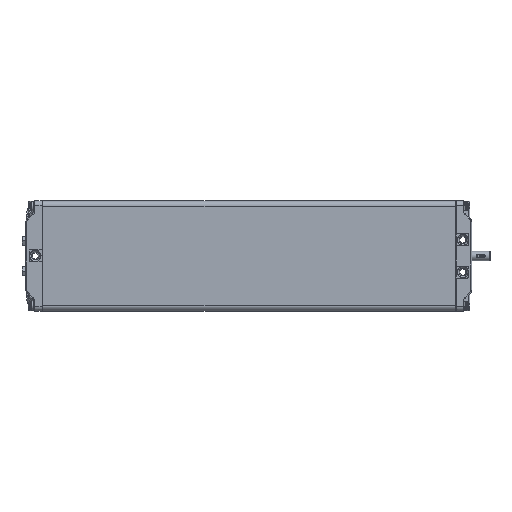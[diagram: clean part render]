
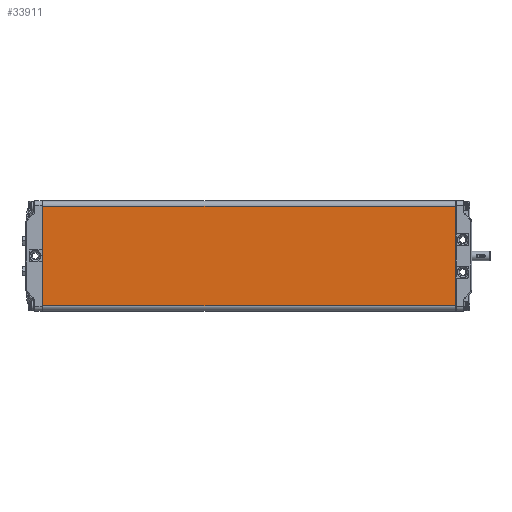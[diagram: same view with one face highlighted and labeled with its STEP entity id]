
A CAD part, top view. The second image highlights one B-rep face of the part: STEP entity #33911.
In plain terms, the highlighted planar face has unit normal (0, 0, 1).
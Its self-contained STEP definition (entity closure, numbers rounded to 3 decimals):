
#3531=LINE('',#72317,#4816);
#3532=LINE('',#72320,#4817);
#3533=LINE('',#72322,#4818);
#3534=LINE('',#72324,#4819);
#4816=VECTOR('',#41149,1000.);
#4817=VECTOR('',#41150,1000.);
#4818=VECTOR('',#41151,1000.);
#4819=VECTOR('',#41152,1000.);
#10116=ORIENTED_EDGE('',*,*,#16193,.T.);
#10117=ORIENTED_EDGE('',*,*,#16194,.T.);
#10118=ORIENTED_EDGE('',*,*,#16195,.T.);
#10119=ORIENTED_EDGE('',*,*,#16196,.T.);
#16193=EDGE_CURVE('',#19457,#19458,#3531,.F.);
#16194=EDGE_CURVE('',#19458,#19459,#3532,.T.);
#16195=EDGE_CURVE('',#19459,#19460,#3533,.T.);
#16196=EDGE_CURVE('',#19460,#19457,#3534,.F.);
#19457=VERTEX_POINT('',#72318);
#19458=VERTEX_POINT('',#72319);
#19459=VERTEX_POINT('',#72321);
#19460=VERTEX_POINT('',#72323);
#22955=EDGE_LOOP('',(#10116,#10117,#10118,#10119));
#24947=FACE_BOUND('',#22955,.T.);
#26093=PLANE('',#36180);
#33911=ADVANCED_FACE('',(#24947),#26093,.T.);
#36180=AXIS2_PLACEMENT_3D('',#72316,#41147,#41148);
#41147=DIRECTION('',(0.,0.,1.));
#41148=DIRECTION('',(1.,0.,0.));
#41149=DIRECTION('',(0.,-1.,0.));
#41150=DIRECTION('',(-1.,0.,0.));
#41151=DIRECTION('',(0.,-1.,0.));
#41152=DIRECTION('',(-1.,0.,0.));
#72316=CARTESIAN_POINT('',(60.,450.5,30.));
#72317=CARTESIAN_POINT('',(54.,450.5,30.));
#72318=CARTESIAN_POINT('',(54.,0.5,30.));
#72319=CARTESIAN_POINT('',(54.,450.,30.));
#72320=CARTESIAN_POINT('',(60.,450.,30.));
#72321=CARTESIAN_POINT('',(-54.,450.,30.));
#72322=CARTESIAN_POINT('',(-54.,450.5,30.));
#72323=CARTESIAN_POINT('',(-54.,0.5,30.));
#72324=CARTESIAN_POINT('',(54.,0.5,30.));
